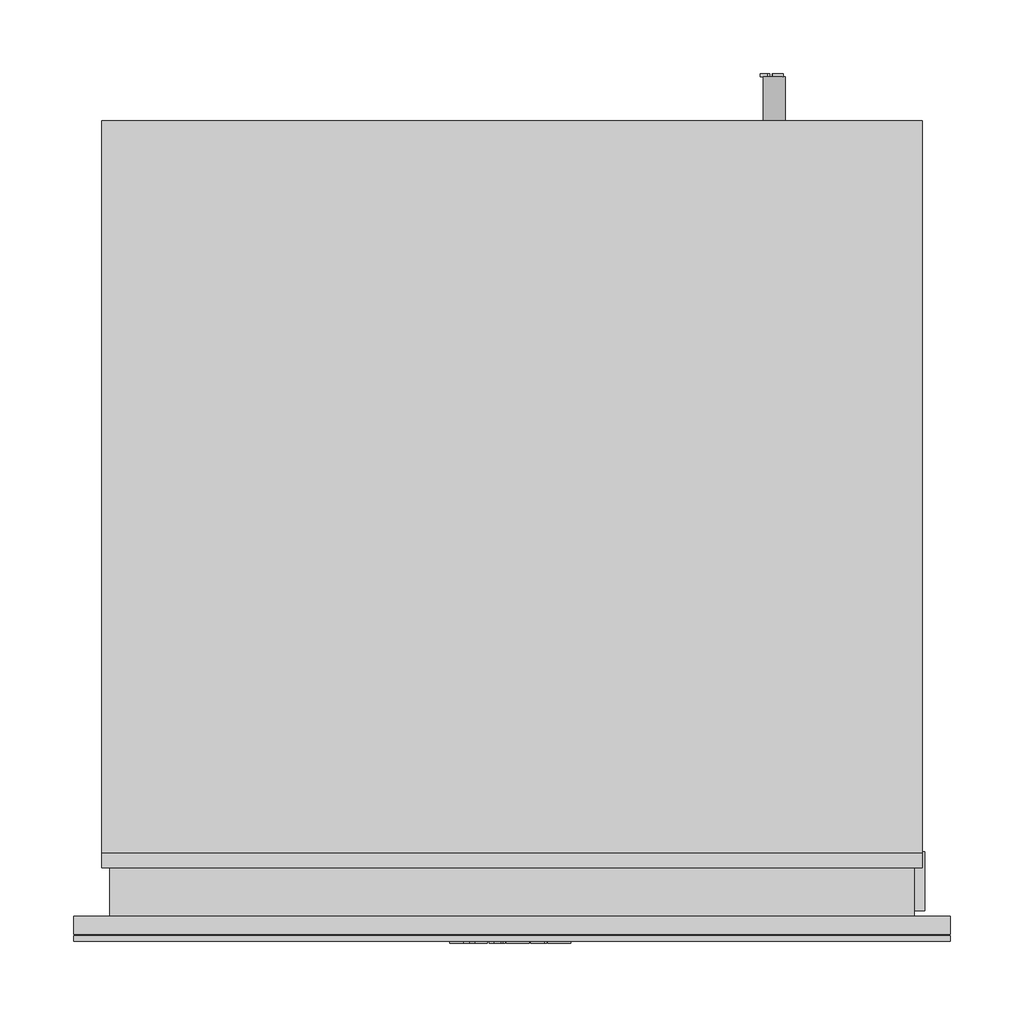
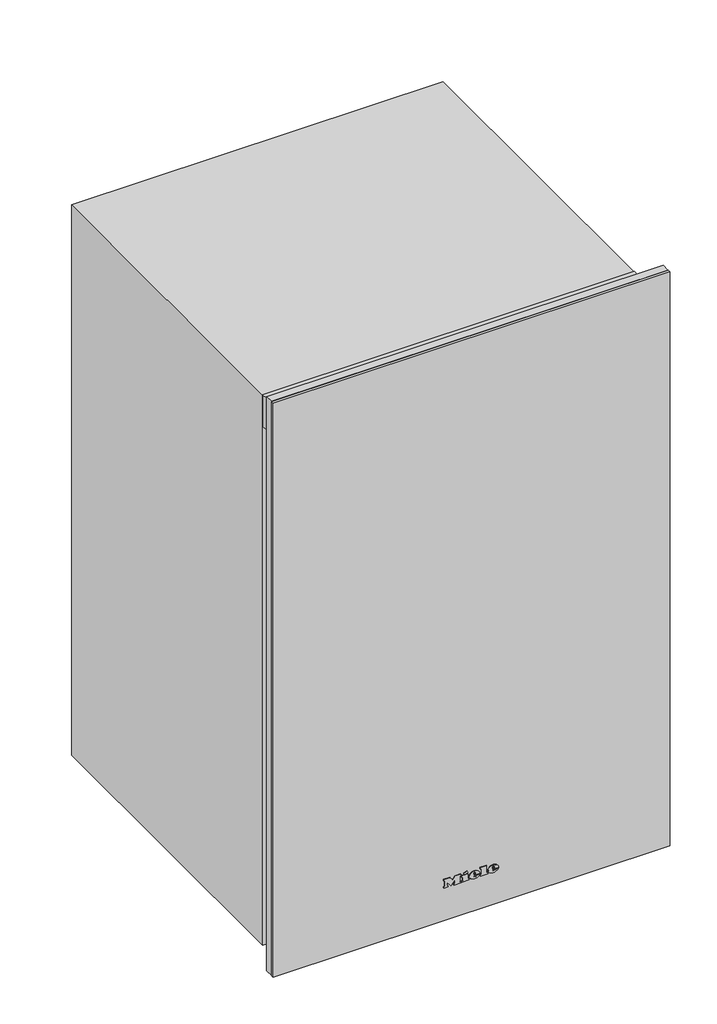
# Not in any storey: 1 proxy.
"""IFC4 building model written with IfcOpenShell, lengths in millimetres."""

import ifcopenshell
import ifcopenshell.guid

model = None  # the IFC model being written
_history = None  # IfcOwnerHistory: only IFC2X3 demands one
_inside = {}  # id of a spatial element -> (the spatial element, [elements in it])
_under = {}  # id of a project, library or spatial element -> (it, [spatial elements below it])
_declared = {}  # id of a project -> (the project, [libraries it declares])
_typed = {}  # id of a type object -> (the type object, [elements of that type])
_made_of = {}  # id of a material, layer set ... -> (it, [elements and type objects made of it])


def new_model(schema):
    """Start an empty IFC model of exactly this schema.

    Asked for "IFC4X3", IfcOpenShell would pick the latest addendum, in which some entities
    have other attributes; the version numbers below select the first issue.
    IFC2X3 requires an IfcOwnerHistory on every rooted entity: one is made here for all.
    """
    global model, _history
    if schema == "IFC4X3":
        model = ifcopenshell.file(schema_version=(4, 3, 0, 0))
    else:
        model = ifcopenshell.file(schema=schema)
    _inside.clear()
    _under.clear()
    _declared.clear()
    _typed.clear()
    _made_of.clear()
    _history = None
    if model.schema == "IFC2X3":
        org = make("IfcOrganization", Name="unknown")
        user = make(
            "IfcPersonAndOrganization",
            ThePerson=make("IfcPerson", FamilyName="unknown"),
            TheOrganization=org,
        )
        app = make(
            "IfcApplication",
            ApplicationDeveloper=org,
            Version="unknown",
            ApplicationFullName="unknown",
            ApplicationIdentifier="unknown",
        )
        _history = make(
            "IfcOwnerHistory",
            OwningUser=user,
            OwningApplication=app,
            ChangeAction="ADDED",
            CreationDate=0,
        )
    return model


def make(cls, **values):
    """One entity of the class cls with the attributes given. An attribute that is None is left unset."""
    return model.create_entity(
        cls, **{name: value for name, value in values.items() if value is not None}
    )


def rooted(cls, **values):
    """An entity with a GlobalId (a new one), such as an element, a storey or a relation."""
    return make(cls, GlobalId=ifcopenshell.guid.new(), OwnerHistory=_history, **values)


def si_unit(unit_type, name, prefix=None):
    """IfcSIUnit, for example si_unit("LENGTHUNIT", "METRE", prefix="MILLI")."""
    return make("IfcSIUnit", UnitType=unit_type, Prefix=prefix, Name=name)


def assignment(units):
    """IfcUnitAssignment: the units of a project."""
    return None if units is None else make("IfcUnitAssignment", Units=units)


def point(xyz):
    """IfcCartesianPoint."""
    return None if xyz is None else make("IfcCartesianPoint", Coordinates=xyz)


def direction(xyz):
    """IfcDirection."""
    return None if xyz is None else make("IfcDirection", DirectionRatios=xyz)


def frame(location, z_axis=None, x_axis=None):
    """IfcAxis2Placement3D, a coordinate frame: its origin and axes. An axis left out is left unset."""
    return make(
        "IfcAxis2Placement3D",
        Location=point(location),
        Axis=direction(z_axis),
        RefDirection=direction(x_axis),
    )


def frame_2d(location, x_axis=None):
    """IfcAxis2Placement2D, a coordinate frame in the plane: its origin and x axis."""
    return make(
        "IfcAxis2Placement2D", Location=point(location), RefDirection=direction(x_axis)
    )


def origin():
    """The frame at (0, 0, 0) with its axes left unset."""
    return frame((0.0, 0.0, 0.0))


def place(relative_to, where):
    """IfcLocalPlacement: puts the frame where relative to a parent placement (None: the world)."""
    return make(
        "IfcLocalPlacement", PlacementRelTo=relative_to, RelativePlacement=where
    )


def context(
    kind, dimensions, precision=None, world=None, true_north=None, identifier=None
):
    """IfcGeometricRepresentationContext, for example the 3D "Model" context."""
    return make(
        "IfcGeometricRepresentationContext",
        ContextIdentifier=identifier,
        ContextType=kind,
        CoordinateSpaceDimension=dimensions,
        Precision=precision,
        WorldCoordinateSystem=world,
        TrueNorth=true_north,
    )


def project(units=None, contexts=None):
    """IfcProject with its units and contexts."""
    return rooted(
        "IfcProject",
        Name="project",
        RepresentationContexts=contexts,
        UnitsInContext=assignment(units),
    )


def spatial(cls, under=None, at=None, **own):
    """A site, building, storey or space (cls), placed at a placement, below another one or the project."""
    s = rooted(cls, ObjectPlacement=at, **own)
    if under is not None:
        _under.setdefault(under.id(), (under, []))[1].append(s)
    return s


def polyline(points):
    """IfcPolyline through the points."""
    return make("IfcPolyline", Points=[point(p) for p in points])


def circle_curve(where, radius):
    """IfcCircle in the frame where."""
    return make("IfcCircle", Position=where, Radius=radius)


def ellipse_curve(where, semi_axis1, semi_axis2):
    """IfcEllipse in the frame where."""
    return make(
        "IfcEllipse", Position=where, SemiAxis1=semi_axis1, SemiAxis2=semi_axis2
    )


def trimmed(basis, trim1, trim2, sense, master):
    """IfcTrimmedCurve: the piece of a basis curve between two trims."""
    return make(
        "IfcTrimmedCurve",
        BasisCurve=basis,
        Trim1=trim1,
        Trim2=trim2,
        SenseAgreement=sense,
        MasterRepresentation=master,
    )


def segment(curve, same_sense, transition):
    """IfcCompositeCurveSegment."""
    return make(
        "IfcCompositeCurveSegment",
        Transition=transition,
        SameSense=same_sense,
        ParentCurve=curve,
    )


def composite_curve(segments, self_intersect=None):
    """IfcCompositeCurve: segments joined end to end."""
    return make("IfcCompositeCurve", Segments=segments, SelfIntersect=self_intersect)


def outline(outer, holes=None, kind="AREA"):
    """IfcArbitraryClosedProfileDef: a profile drawn as a closed curve; with holes, ...WithVoids."""
    if holes is None:
        return make("IfcArbitraryClosedProfileDef", ProfileType=kind, OuterCurve=outer)
    return make(
        "IfcArbitraryProfileDefWithVoids",
        ProfileType=kind,
        OuterCurve=outer,
        InnerCurves=holes,
    )


def extrude(swept, where, along, depth):
    """IfcExtrudedAreaSolid: the profile swept, set in the frame where, extruded along a direction by depth."""
    return make(
        "IfcExtrudedAreaSolid",
        SweptArea=swept,
        Position=where,
        ExtrudedDirection=direction(along),
        Depth=depth,
    )


def faces_of(points, faces, orient=None, outer=None):
    """IfcFace entities. A face is a list of loops; a loop is a list of indices into points, from 0.

    orient and outer hold one flag for each loop. By default every Orientation is true, the
    first loop of a face is its IfcFaceOuterBound and the others are IfcFaceBound.
    """
    made = []
    for i, loops in enumerate(faces):
        bounds = []
        for j, loop in enumerate(loops):
            is_outer = j == 0 if outer is None else outer[i][j]
            bounds.append(
                make(
                    "IfcFaceOuterBound" if is_outer else "IfcFaceBound",
                    Bound=make("IfcPolyLoop", Polygon=[points[k] for k in loop]),
                    Orientation=True if orient is None else orient[i][j],
                )
            )
        made.append(make("IfcFace", Bounds=bounds))
    return made


def faceted_brep(points, faces, orient=None, outer=None, voids=None):
    """IfcFacetedBrep: a solid bounded by flat faces; with voids (closed shells), ...WithVoids."""
    shared = [point(p) for p in points]
    hull = make("IfcClosedShell", CfsFaces=faces_of(shared, faces, orient, outer))
    if voids is None:
        return make("IfcFacetedBrep", Outer=hull)
    return make(
        "IfcFacetedBrepWithVoids",
        Outer=hull,
        Voids=[
            make(cls, CfsFaces=faces_of(shared, fs, o, b)) for cls, fs, o, b in voids
        ],
    )


def shape(context_of_items, identifier, shape_type, items):
    """IfcShapeRepresentation: the items that make up one representation, for example the "Body"."""
    return make(
        "IfcShapeRepresentation",
        ContextOfItems=context_of_items,
        RepresentationIdentifier=identifier,
        RepresentationType=shape_type,
        Items=items,
    )


def source(mapping_origin, context_of_items, identifier, shape_type, items):
    """IfcRepresentationMap: a shape defined once, which mapped items show again and again."""
    return make(
        "IfcRepresentationMap",
        MappingOrigin=mapping_origin,
        MappedRepresentation=shape(context_of_items, identifier, shape_type, items),
    )


def transform(
    local_origin,
    x_axis=None,
    y_axis=None,
    z_axis=None,
    scale=None,
    scale2=None,
    scale3=None,
    uniform=True,
):
    """IfcCartesianTransformationOperator3D, or its non-uniform kind. x_axis, y_axis, z_axis: its Axis1, 2, 3."""
    if uniform:
        return make(
            "IfcCartesianTransformationOperator3D",
            Axis1=direction(x_axis),
            Axis2=direction(y_axis),
            LocalOrigin=point(local_origin),
            Scale=scale,
            Axis3=direction(z_axis),
        )
    return make(
        "IfcCartesianTransformationOperator3DnonUniform",
        Axis1=direction(x_axis),
        Axis2=direction(y_axis),
        LocalOrigin=point(local_origin),
        Scale=scale,
        Axis3=direction(z_axis),
        Scale2=scale2,
        Scale3=scale3,
    )


def mapped(mapping_source, mapping_target):
    """IfcMappedItem: shows the shape of a source again, moved by a transform."""
    return make(
        "IfcMappedItem", MappingSource=mapping_source, MappingTarget=mapping_target
    )


def made_of(thing, what):
    """Note that an element or type object is made of a material, layer set ...; save() writes the relation."""
    if what is not None:
        _made_of.setdefault(what.id(), (what, []))[1].append(thing)
    return thing


def element(
    cls,
    number,
    at=None,
    inside=None,
    cuts=None,
    type_object=None,
    material=None,
    context=None,
    identifier="Body",
    shape_type=None,
    held_by="IfcProductDefinitionShape",
    body=None,
    shapes=None,
    **own,
):
    """One element of the class cls, such as IfcWall. Its Tag is "e" and its number.

    at: its placement. inside: the storey or other place that contains it. cuts: it is an
    opening in that element (IfcRelVoidsElement). A single representation is given by context,
    identifier, shape_type and body (its items); several are given by shapes. held_by: the class
    of the entity that holds the representations. save() writes the other relations.
    """
    e = rooted(cls, Tag="e%d" % number, ObjectPlacement=at, **own)
    if body is not None:
        shapes = [shape(context, identifier, shape_type, body)]
    if shapes is not None:
        e.Representation = make(held_by, Representations=shapes)
    if inside is not None:
        _inside.setdefault(inside.id(), (inside, []))[1].append(e)
    if cuts is not None:
        rooted(
            "IfcRelVoidsElement", RelatingBuildingElement=cuts, RelatedOpeningElement=e
        )
    if type_object is not None:
        _typed.setdefault(type_object.id(), (type_object, []))[1].append(e)
    return made_of(e, material)


def aggregate(whole, parts):
    """IfcRelAggregates: a whole, such as a stair, and the parts it consists of."""
    return rooted("IfcRelAggregates", RelatingObject=whole, RelatedObjects=parts)


def save(model, path):
    """Write the relations noted so far, then the file.

    IfcRelAggregates (storeys below a building ...), IfcRelContainedInSpatialStructure (elements
    in a storey), IfcRelDefinesByType, IfcRelAssociatesMaterial and IfcRelDeclares: one each for
    every whole, place, type object, material and project.
    """
    for whole, parts in _under.values():
        aggregate(whole, parts)
    for where, things in _inside.values():
        rooted(
            "IfcRelContainedInSpatialStructure",
            RelatedElements=things,
            RelatingStructure=where,
        )
    for kind, things in _typed.values():
        rooted("IfcRelDefinesByType", RelatedObjects=things, RelatingType=kind)
    for what, things in _made_of.values():
        rooted("IfcRelAssociatesMaterial", RelatedObjects=things, RelatingMaterial=what)
    for by, libraries in _declared.values():
        rooted("IfcRelDeclares", RelatingContext=by, RelatedDefinitions=libraries)
    model.write(path)


def plane_surface(at):
    """IfcPlane: the flat surface through the origin of the frame at, square to its z axis."""
    return make("IfcPlane", Position=at)


def cylinder_surface(at, radius):
    """IfcCylindricalSurface: all points at the distance radius from the z axis of the frame at."""
    return make("IfcCylindricalSurface", Position=at, Radius=radius)


def revolved_surface(curve, axis_point, axis_direction):
    """IfcSurfaceOfRevolution: the curve turned about the line through axis_point along axis_direction."""
    return make(
        "IfcSurfaceOfRevolution",
        SweptCurve=make("IfcArbitraryOpenProfileDef", ProfileType="CURVE", Curve=curve),
        AxisPosition=make("IfcAxis1Placement", Location=point(axis_point), Axis=direction(axis_direction)),
    )


def extruded_surface(curve, direction_of_extrusion, depth):
    """IfcSurfaceOfLinearExtrusion: the curve pushed along a direction by depth."""
    return make(
        "IfcSurfaceOfLinearExtrusion",
        SweptCurve=make("IfcArbitraryOpenProfileDef", ProfileType="CURVE", Curve=curve),
        ExtrudedDirection=direction(direction_of_extrusion),
        Depth=depth,
    )


def advanced_brep(points, edges, surfaces, faces):
    """IfcAdvancedBrep: a solid bounded by faces that lie on surfaces and meet in shared edges.

    An edge is (start, end): straight between two places in points (the first is 0);
    or (start, end, curve); or (start, end, curve, False) where it runs against its curve.
    A face is (place in surfaces, loops), or (place, loops, False) where it looks against
    its surface's normal. A loop lists edges by number (the first is 1), with a minus sign
    where the edge is run from its end to its start. The first loop is the outer one.
    """
    corners = [point(p) for p in points]
    vertices = [make("IfcVertexPoint", VertexGeometry=c) for c in corners]
    made = []
    for start, end, *more in edges:
        made.append(
            make(
                "IfcEdgeCurve",
                EdgeStart=vertices[start],
                EdgeEnd=vertices[end],
                EdgeGeometry=more[0] if more else make("IfcPolyline", Points=[corners[start], corners[end]]),
                SameSense=more[1] if len(more) > 1 else True,
            )
        )
    hull = []
    for where, loops, *sense in faces:
        bounds = []
        for j, loop in enumerate(loops):
            ring = [make("IfcOrientedEdge", EdgeElement=made[abs(k) - 1], Orientation=k > 0) for k in loop]
            bounds.append(
                make(
                    "IfcFaceOuterBound" if j == 0 else "IfcFaceBound",
                    Bound=make("IfcEdgeLoop", EdgeList=ring),
                    Orientation=True,
                )
            )
        hull.append(make("IfcAdvancedFace", Bounds=bounds, FaceSurface=surfaces[where], SameSense=sense[0] if sense else True))
    return make("IfcAdvancedBrep", Outer=make("IfcClosedShell", CfsFaces=hull))


def specialty_equipment_434683bb(model_context):
    return source(origin(), model_context, "Body", "SolidModel", [
        advanced_brep(
        [(30.9909978, -1.0, 48.1245173), (30.9909978, -1.0, 49.4880173), (40.0224978, -1.0, 49.4880173), (24.3084978, -1.0, 49.4880173), (28.0209978, -1.0, 44.9250173), (39.7929978, -1.0, 48.1245173), (35.7159978, -1.0, 48.1245173), (32.5029978, -1.0, 46.6125173), (30.9909978, -1.0, 51.2160173), (30.9909978, -1.0, 52.6875173), (33.2994978, -1.0, 52.6875173), (33.2994978, -1.0, 51.2160173), (30.9909978, 0.0, 48.1245173), (32.5029978, 0.0, 46.6125173), (35.7159978, 0.0, 48.1245173), (39.7929978, 0.0, 48.1245173), (28.0209978, 0.0, 44.9250173), (24.3084978, 0.0, 49.4880173), (40.0224978, 0.0, 49.4880173), (30.9909978, 0.0, 49.4880173), (30.9909978, 0.0, 51.2160173), (33.2994978, 0.0, 51.2160173), (33.2994978, 0.0, 52.6875173), (30.9909978, 0.0, 52.6875173)],
        [
            (0, 1),
            (1, 2),
            (2, 3, ellipse_curve(frame((32.1654978, -1.0, 49.4880173), z_axis=(0.0, -1.0, 0.0), x_axis=(-1.0, 0.0, 0.0)), 7.857, 6.4935)),
            (3, 4, circle_curve(frame((29.5330714, -1.0, 49.9470173), z_axis=(0.0, -1.0, 0.0), x_axis=(0.0, 0.0, -1.0)), 5.2446974)),
            (4, 5, circle_curve(frame((32.008212, -1.0, 53.5110173), z_axis=(0.0, -1.0, 0.0), x_axis=(0.0, 0.0, -1.0)), 9.46664)),
            (5, 6),
            (6, 7, circle_curve(frame((33.1629096, -1.0, 49.3800173), z_axis=(0.0, 1.0, 0.0), x_axis=(0.0, 0.0, -1.0)), 2.8450905)),
            (7, 0, circle_curve(frame((32.5029978, -1.0, 48.1245173), z_axis=(0.0, 1.0, 0.0), x_axis=(0.0, 0.0, -1.0)), 1.512)),
            (8, 9),
            (9, 10, circle_curve(frame((32.1452478, -1.0, 52.6875173), z_axis=(0.0, 1.0, 0.0), x_axis=(0.0, 0.0, -1.0)), 1.15425)),
            (10, 11),
            (11, 8),
            (12, 13, circle_curve(frame((32.5029978, 0.0, 48.1245173), z_axis=(0.0, -1.0, 0.0), x_axis=(0.0, 0.0, -1.0)), 1.512)),
            (13, 14, circle_curve(frame((33.1629096, 0.0, 49.3800173), z_axis=(0.0, -1.0, 0.0), x_axis=(0.0, 0.0, -1.0)), 2.8450905)),
            (14, 15),
            (15, 16, circle_curve(frame((32.008212, 0.0, 53.5110173), z_axis=(0.0, 1.0, 0.0), x_axis=(0.0, 0.0, -1.0)), 9.46664)),
            (16, 17, circle_curve(frame((29.5330714, 0.0, 49.9470173), z_axis=(0.0, 1.0, 0.0), x_axis=(0.0, 0.0, -1.0)), 5.2446974)),
            (17, 18, ellipse_curve(frame((32.1654978, 0.0, 49.4880173), z_axis=(0.0, 1.0, 0.0), x_axis=(-1.0, 0.0, 0.0)), 7.857, 6.4935)),
            (18, 19),
            (19, 12),
            (20, 21),
            (21, 22),
            (22, 23, circle_curve(frame((32.1452478, 0.0, 52.6875173), z_axis=(0.0, -1.0, 0.0), x_axis=(0.0, 0.0, -1.0)), 1.15425)),
            (23, 20),
            (0, 12),
            (19, 1),
            (18, 2),
            (5, 15),
            (14, 6),
            (17, 3),
            (13, 7),
            (16, 4),
            (8, 20),
            (23, 9),
            (22, 10),
            (21, 11),
        ],
        [
            plane_surface(frame((30.9909978, -1.0, 49.4880173), z_axis=(0.0, -1.0, 0.0), x_axis=(0.0, 0.0, 1.0))),
            plane_surface(frame((30.9909978, 0.0, 49.4880173), z_axis=(0.0, 1.0, 0.0), x_axis=(0.0, 0.0, -1.0))),
            plane_surface(frame((30.9909978, -1.0, 48.1245173), z_axis=(1.0, 0.0, 0.0), x_axis=(0.0, 1.0, 0.0))),
            plane_surface(frame((30.9909978, -1.0, 49.4880173), z_axis=(0.0, 0.0, -1.0), x_axis=(0.0, 1.0, 0.0))),
            plane_surface(frame((39.7929978, -1.0, 48.1245173), z_axis=(0.0, 0.0, 1.0), x_axis=(0.0, 1.0, 0.0))),
            extruded_surface(trimmed(ellipse_curve(frame((32.1654978, 1.0, 49.4880173), z_axis=(0.0, -1.0, 0.0), x_axis=(-1.0, 0.0, 0.0)), 7.857, 6.4935), [point((40.0224978, 1.0, 49.4880173))], [point((24.3084978, 1.0, 49.4880173))], True, "CARTESIAN"), (0.0, -1.0, 0.0), 1.0),
            revolved_surface(polyline([(33.1629096, 0.0, 46.5349268), (33.1629096, -1.0, 46.5349268)]), (33.1629096, 0.0, 49.3800173), (0.0, 1.0, 0.0)),
            revolved_surface(polyline([(32.5029978, 0.0, 46.6125173), (32.5029978, -1.0, 46.6125173)]), (32.5029978, 0.0, 48.1245173), (0.0, 1.0, 0.0)),
            cylinder_surface(frame((29.5330714, 0.0, 49.9470173), z_axis=(0.0, -1.0, 0.0), x_axis=(0.0, 0.0, -1.0)), 5.2446974),
            cylinder_surface(frame((32.008212, 0.0, 53.5110173), z_axis=(0.0, -1.0, 0.0), x_axis=(0.0, 0.0, -1.0)), 9.46664),
            plane_surface(frame((30.9909978, -1.0, 51.2160173), z_axis=(1.0, 0.0, 0.0), x_axis=(0.0, 1.0, 0.0))),
            revolved_surface(polyline([(32.1452478, 0.0, 51.533267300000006), (32.1452478, -1.0, 51.533267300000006)]), (32.1452478, 0.0, 52.6875173), (0.0, 1.0, 0.0)),
            plane_surface(frame((33.2994978, -1.0, 52.6875173), z_axis=(-1.0, 0.0, 0.0), x_axis=(0.0, 1.0, 0.0))),
            plane_surface(frame((33.2994978, -1.0, 51.2160173), z_axis=(0.0, 0.0, 1.0), x_axis=(0.0, 1.0, 0.0))),
        ],
        [
            (0, [[1, 2, 3, 4, 5, 6, 7, 8], [9, 10, 11, 12]]),
            (1, [[13, 14, 15, 16, 17, 18, 19, 20], [21, 22, 23, 24]]),
            (2, [[-1, 25, -20, 26]]),
            (3, [[-2, -26, -19, 27]]),
            (4, [[-6, 28, -15, 29]]),
            (5, [[-3, -27, -18, 30]]),
            (6, [[-7, -29, -14, 31]]),
            (7, [[-8, -31, -13, -25]]),
            (8, [[-4, -30, -17, 32]]),
            (9, [[-5, -32, -16, -28]]),
            (10, [[-9, 33, -24, 34]]),
            (11, [[-10, -34, -23, 35]]),
            (12, [[-11, -35, -22, 36]]),
            (13, [[-12, -36, -21, -33]]),
        ],
    ),
        advanced_brep(
        [(2.8164978, -1.0, 48.1245173), (2.8164978, -1.0, 49.4880173), (11.8479978, -1.0, 49.4880173), (-3.8660022, -1.0, 49.4880173), (-0.1535022, -1.0, 44.9250173), (11.6184978, -1.0, 48.1245173), (7.5414978, -1.0, 48.1245173), (4.3284978, -1.0, 46.6125173), (2.8164978, -1.0, 51.2160173), (2.8164978, -1.0, 52.6875173), (5.1249978, -1.0, 52.6875173), (5.1249978, -1.0, 51.2160173), (2.8164978, 0.0, 48.1245173), (4.3284978, 0.0, 46.6125173), (7.5414978, 0.0, 48.1245173), (11.6184978, 0.0, 48.1245173), (-0.1535022, 0.0, 44.9250173), (-3.8660022, 0.0, 49.4880173), (11.8479978, 0.0, 49.4880173), (2.8164978, 0.0, 49.4880173), (2.8164978, 0.0, 51.2160173), (5.1249978, 0.0, 51.2160173), (5.1249978, 0.0, 52.6875173), (2.8164978, 0.0, 52.6875173)],
        [
            (0, 1),
            (1, 2),
            (2, 3, ellipse_curve(frame((3.9909978, -1.0, 49.4880173), z_axis=(0.0, -1.0, 0.0), x_axis=(-1.0, 0.0, 0.0)), 7.857, 6.4935)),
            (3, 4, circle_curve(frame((1.3585714, -1.0, 49.9470173), z_axis=(0.0, -1.0, 0.0), x_axis=(0.0, 0.0, -1.0)), 5.2446974)),
            (4, 5, circle_curve(frame((3.833712, -1.0, 53.5110173), z_axis=(0.0, -1.0, 0.0), x_axis=(0.0, 0.0, -1.0)), 9.46664)),
            (5, 6),
            (6, 7, circle_curve(frame((4.9884096, -1.0, 49.3800173), z_axis=(0.0, 1.0, 0.0), x_axis=(0.0, 0.0, -1.0)), 2.8450905)),
            (7, 0, circle_curve(frame((4.3284978, -1.0, 48.1245173), z_axis=(0.0, 1.0, 0.0), x_axis=(0.0, 0.0, -1.0)), 1.512)),
            (8, 9),
            (9, 10, circle_curve(frame((3.9707478, -1.0, 52.6875173), z_axis=(0.0, 1.0, 0.0), x_axis=(0.0, 0.0, -1.0)), 1.15425)),
            (10, 11),
            (11, 8),
            (12, 13, circle_curve(frame((4.3284978, 0.0, 48.1245173), z_axis=(0.0, -1.0, 0.0), x_axis=(0.0, 0.0, -1.0)), 1.512)),
            (13, 14, circle_curve(frame((4.9884096, 0.0, 49.3800173), z_axis=(0.0, -1.0, 0.0), x_axis=(0.0, 0.0, -1.0)), 2.8450905)),
            (14, 15),
            (15, 16, circle_curve(frame((3.833712, 0.0, 53.5110173), z_axis=(0.0, 1.0, 0.0), x_axis=(0.0, 0.0, -1.0)), 9.46664)),
            (16, 17, circle_curve(frame((1.3585714, 0.0, 49.9470173), z_axis=(0.0, 1.0, 0.0), x_axis=(0.0, 0.0, -1.0)), 5.2446974)),
            (17, 18, ellipse_curve(frame((3.9909978, 0.0, 49.4880173), z_axis=(0.0, 1.0, 0.0), x_axis=(-1.0, 0.0, 0.0)), 7.857, 6.4935)),
            (18, 19),
            (19, 12),
            (20, 21),
            (21, 22),
            (22, 23, circle_curve(frame((3.9707478, 0.0, 52.6875173), z_axis=(0.0, -1.0, 0.0), x_axis=(0.0, 0.0, -1.0)), 1.15425)),
            (23, 20),
            (0, 12),
            (19, 1),
            (18, 2),
            (5, 15),
            (14, 6),
            (17, 3),
            (13, 7),
            (16, 4),
            (8, 20),
            (23, 9),
            (22, 10),
            (21, 11),
        ],
        [
            plane_surface(frame((2.8164978, -1.0, 49.4880173), z_axis=(0.0, -1.0, 0.0), x_axis=(0.0, 0.0, 1.0))),
            plane_surface(frame((2.8164978, 0.0, 49.4880173), z_axis=(0.0, 1.0, 0.0), x_axis=(0.0, 0.0, -1.0))),
            plane_surface(frame((2.8164978, -1.0, 48.1245173), z_axis=(1.0, 0.0, 0.0), x_axis=(0.0, 1.0, 0.0))),
            plane_surface(frame((2.8164978, -1.0, 49.4880173), z_axis=(0.0, 0.0, -1.0), x_axis=(0.0, 1.0, 0.0))),
            plane_surface(frame((11.6184978, -1.0, 48.1245173), z_axis=(0.0, 0.0, 1.0), x_axis=(0.0, 1.0, 0.0))),
            extruded_surface(trimmed(ellipse_curve(frame((3.9909978, 1.0, 49.4880173), z_axis=(0.0, -1.0, 0.0), x_axis=(-1.0, 0.0, 0.0)), 7.857, 6.4935), [point((11.8479978, 1.0, 49.4880173))], [point((-3.8660022, 1.0, 49.4880173))], True, "CARTESIAN"), (0.0, -1.0, 0.0), 1.0),
            revolved_surface(polyline([(4.9884096, 0.0, 46.5349268), (4.9884096, -1.0, 46.5349268)]), (4.9884096, 0.0, 49.3800173), (0.0, 1.0, 0.0)),
            revolved_surface(polyline([(4.3284978, 0.0, 46.6125173), (4.3284978, -1.0, 46.6125173)]), (4.3284978, 0.0, 48.1245173), (0.0, 1.0, 0.0)),
            cylinder_surface(frame((1.3585714, 0.0, 49.9470173), z_axis=(0.0, -1.0, 0.0), x_axis=(0.0, 0.0, -1.0)), 5.2446974),
            cylinder_surface(frame((3.833712, 0.0, 53.5110173), z_axis=(0.0, -1.0, 0.0), x_axis=(0.0, 0.0, -1.0)), 9.46664),
            plane_surface(frame((2.8164978, -1.0, 51.2160173), z_axis=(1.0, 0.0, 0.0), x_axis=(0.0, 1.0, 0.0))),
            revolved_surface(polyline([(3.9707478, 0.0, 51.533267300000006), (3.9707478, -1.0, 51.533267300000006)]), (3.9707478, 0.0, 52.6875173), (0.0, 1.0, 0.0)),
            plane_surface(frame((5.1249978, -1.0, 52.6875173), z_axis=(-1.0, 0.0, 0.0), x_axis=(0.0, 1.0, 0.0))),
            plane_surface(frame((5.1249978, -1.0, 51.2160173), z_axis=(0.0, 0.0, 1.0), x_axis=(0.0, 1.0, 0.0))),
        ],
        [
            (0, [[1, 2, 3, 4, 5, 6, 7, 8], [9, 10, 11, 12]]),
            (1, [[13, 14, 15, 16, 17, 18, 19, 20], [21, 22, 23, 24]]),
            (2, [[-1, 25, -20, 26]]),
            (3, [[-2, -26, -19, 27]]),
            (4, [[-6, 28, -15, 29]]),
            (5, [[-3, -27, -18, 30]]),
            (6, [[-7, -29, -14, 31]]),
            (7, [[-8, -31, -13, -25]]),
            (8, [[-4, -30, -17, 32]]),
            (9, [[-5, -32, -16, -28]]),
            (10, [[-9, 33, -24, 34]]),
            (11, [[-10, -34, -23, 35]]),
            (12, [[-11, -35, -22, 36]]),
            (13, [[-12, -36, -21, -33]]),
        ],
    ),
        extrude(outline(polyline([(57.6285173, -11.9390022), (55.4415173, -10.9130022), (57.5745173, -6.3365022), (59.7615173, -7.3490022), (57.6285173, -11.9390022)])), frame((0.0, -1.0, 0.0), z_axis=(0.0, 1.0, 0.0), x_axis=(0.0, 0.0, 1.0)), (0.0, 0.0, 1.0), 1.0),
        extrude(outline(polyline([(55.1445173, -15.2735022), (52.7280173, -15.2735022), (52.7280173, -13.6670022), (47.1930173, -13.6670022), (47.1930173, -15.2735022), (44.9250173, -15.2735022), (44.9250173, -4.6220022), (47.1930173, -4.6220022), (47.1930173, -6.1880022), (55.1445173, -6.1880022), (55.1445173, -15.2735022)])), frame((0.0, -1.0, 0.0), z_axis=(0.0, 1.0, 0.0), x_axis=(0.0, 0.0, 1.0)), (0.0, 0.0, 1.0), 1.0),
        extrude(outline(polyline([(56.2245173, 12.6039978), (56.2245173, 14.2239978), (47.1930173, 14.2239978), (47.1930173, 12.6039978), (44.9250173, 12.6039978), (44.9250173, 23.5524978), (47.1930173, 23.5524978), (47.1930173, 21.8919978), (58.4250173, 21.8919978), (58.4250173, 12.6039978), (56.2245173, 12.6039978)])), frame((0.0, -1.0, 0.0), z_axis=(0.0, 1.0, 0.0), x_axis=(0.0, 0.0, 1.0)), (0.0, 0.0, 1.0), 1.0),
        extrude(outline(polyline([(56.2245173, -42.1790022), (56.2245173, -40.5455022), (47.1930173, -40.5455022), (47.1930173, -42.1790022), (44.9250173, -42.1790022), (44.9250173, -36.2390022), (47.1930173, -36.2390022), (47.1930173, -37.8590022), (52.900642, -37.8590022), (44.9250173, -31.8245022), (53.1777396, -25.7630022), (47.1930173, -25.7630022), (47.1930173, -27.4235022), (44.9250173, -27.4235022), (44.9250173, -16.6505022), (47.1930173, -16.6505022), (47.1930173, -18.3650022), (56.2245173, -18.3650022), (56.2245173, -16.6505022), (58.4250173, -16.6505022), (58.4250173, -24.8720022), (53.3625173, -28.8140022), (58.4250173, -32.7695022), (58.4250173, -42.1790022), (56.2245173, -42.1790022)])), frame((0.0, -1.0, 0.0), z_axis=(0.0, 1.0, 0.0), x_axis=(0.0, 0.0, 1.0)), (0.0, 0.0, 1.0), 1.0),
        extrude(outline(polyline([(0.0, -5.0), (0.0, 0.0), (342.0, 0.0), (342.0, -5.0), (0.0, -5.0)])), frame((171.0, 69.1703709, 491.2940952), z_axis=(0.0, 0.2588190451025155, 0.9659258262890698), x_axis=(-1.0, 0.0, 0.0)), (0.0, 0.0, 1.0), 48.0),
        extrude(outline(composite_curve([segment(trimmed(circle_curve(frame_2d((52.0, 178.0)), 7.5), [point((52.0, 185.5))], [point((52.0, 170.5))], False, "CARTESIAN"), True, "CONTINUOUS"), segment(trimmed(circle_curve(frame_2d((52.0, 178.0)), 7.5), [point((52.0, 170.5))], [point((52.0, 185.5))], False, "CARTESIAN"), True, "CONTINUOUS")], self_intersect=False)), frame((0.0, 557.0, 0.0), z_axis=(0.0, 1.0, 0.0), x_axis=(0.0, 0.0, 1.0)), (0.0, 0.0, 1.0), 30.0),
        faceted_brep([(278.5, 557.0, 872.0), (-278.5, 557.0, 872.0), (-278.5, 60.0, 872.0), (278.5, 60.0, 872.0), (278.5, 557.0, 0.0), (278.5, 60.0, 0.0), (-278.5, 60.0, 0.0), (-278.5, 557.0, 0.0), (-232.5, 60.0, 782.0), (232.5, 60.0, 782.0), (232.5, 60.0, 80.0), (-232.5, 60.0, 80.0), (232.5, 460.0, 782.0), (-232.5, 460.0, 782.0), (-232.5, 460.0, 80.0), (232.5, 460.0, 80.0)], [[[0, 1, 2, 3]], [[4, 5, 6, 7]], [[1, 0, 4, 7]], [[2, 1, 7, 6]], [[3, 2, 6, 5], [8, 9, 10, 11]], [[0, 3, 5, 4]], [[12, 13, 14, 15]], [[13, 12, 9, 8]], [[14, 13, 8, 11]], [[15, 14, 11, 10]], [[12, 15, 10, 9]]]),
        extrude(outline(polyline([(232.5, 339.0), (-232.5, 339.0), (-232.5, 460.0), (232.5, 460.0), (232.5, 339.0)])), frame((0.0, 0.0, 80.0), z_axis=(0.0, 0.0, 1.0), x_axis=(1.0, 0.0, 0.0)), (0.0, 0.0, 1.0), 205.0),
        extrude(outline(polyline([(232.5, 460.0), (232.5, 400.0), (-232.5, 400.0), (-232.5, 460.0), (232.5, 460.0)])), frame((0.0, 0.0, 354.9519517), z_axis=(0.0, 0.0, 1.0), x_axis=(1.0, 0.0, 0.0)), (0.0, 0.0, 1.0), 119.0480483),
        extrude(outline(polyline([(400.0, 634.0), (400.0, 752.0), (60.0, 752.0), (60.0, 782.0), (460.0, 782.0), (460.0, 634.0), (400.0, 634.0)])), frame((-232.5, 0.0, 0.0), z_axis=(1.0, 0.0, 0.0), x_axis=(0.0, 1.0, 0.0)), (0.0, 0.0, 1.0), 465.0),
        extrude(outline(polyline([(47.2618945, 184.0941573), (57.3075256, 184.0941573), (57.3075256, 176.87386), (56.0518217, 176.87386), (56.0518217, 182.8384535), (53.069525, 182.8384535), (53.069525, 177.187786), (51.8138211, 177.187786), (51.8138211, 182.8384535), (48.5175984, 182.8384535), (48.5175984, 176.7168971), (47.2618945, 176.7168971), (47.2618945, 184.0941573)])), frame((0.0, 587.0, 0.0), z_axis=(0.0, 1.0, 0.0), x_axis=(0.0, 0.0, 1.0)), (0.0, 0.0, 1.0), 2.0),
        extrude(outline(polyline([(47.2618945, 174.8333412), (57.3075256, 174.8333412), (57.3075256, 173.5776374), (48.5175984, 173.5776374), (48.5175984, 168.5548219), (47.2618945, 168.5548219), (47.2618945, 174.8333412)])), frame((0.0, 587.0, 0.0), z_axis=(0.0, 1.0, 0.0), x_axis=(0.0, 0.0, 1.0)), (0.0, 0.0, 1.0), 2.0),
        extrude(outline(polyline([(-278.5, 60.0), (278.5, 60.0), (278.5, 50.0), (-278.5, 50.0), (-278.5, 60.0)])), frame((0.0, 0.0, 823.0), z_axis=(0.0, 0.0, 1.0), x_axis=(1.0, 0.0, 0.0)), (0.0, 0.0, 1.0), 50.0),
        extrude(outline(polyline([(10.0, 67.0438353), (-10.0, 67.0438353), (-10.0, 400.0), (10.0, 400.0), (10.0, 67.0438353)])), frame((0.0, 0.0, 373.0), z_axis=(0.0, 0.0, 1.0), x_axis=(1.0, 0.0, 0.0)), (0.0, 0.0, 1.0), 10.0),
        extrude(outline(polyline([(-40.625, 67.0438353), (-60.625, 67.0438353), (-60.625, 400.0), (-40.625, 400.0), (-40.625, 67.0438353)])), frame((0.0, 0.0, 373.0), z_axis=(0.0, 0.0, 1.0), x_axis=(1.0, 0.0, 0.0)), (0.0, 0.0, 1.0), 10.0),
        extrude(outline(polyline([(-91.25, 67.0438353), (-111.25, 67.0438353), (-111.25, 400.0), (-91.25, 400.0), (-91.25, 67.0438353)])), frame((0.0, 0.0, 373.0), z_axis=(0.0, 0.0, 1.0), x_axis=(1.0, 0.0, 0.0)), (0.0, 0.0, 1.0), 10.0),
        extrude(outline(polyline([(-141.875, 67.0438353), (-161.875, 67.0438353), (-161.875, 400.0), (-141.875, 400.0), (-141.875, 67.0438353)])), frame((0.0, 0.0, 373.0), z_axis=(0.0, 0.0, 1.0), x_axis=(1.0, 0.0, 0.0)), (0.0, 0.0, 1.0), 10.0),
        extrude(outline(polyline([(-192.5, 67.0438353), (-212.5, 67.0438353), (-212.5, 400.0), (-192.5, 400.0), (-192.5, 67.0438353)])), frame((0.0, 0.0, 373.0), z_axis=(0.0, 0.0, 1.0), x_axis=(1.0, 0.0, 0.0)), (0.0, 0.0, 1.0), 10.0),
        extrude(outline(polyline([(60.625, 67.0438353), (40.625, 67.0438353), (40.625, 400.0), (60.625, 400.0), (60.625, 67.0438353)])), frame((0.0, 0.0, 373.0), z_axis=(0.0, 0.0, 1.0), x_axis=(1.0, 0.0, 0.0)), (0.0, 0.0, 1.0), 10.0),
        extrude(outline(polyline([(111.25, 67.0438353), (91.25, 67.0438353), (91.25, 400.0), (111.25, 400.0), (111.25, 67.0438353)])), frame((0.0, 0.0, 373.0), z_axis=(0.0, 0.0, 1.0), x_axis=(1.0, 0.0, 0.0)), (0.0, 0.0, 1.0), 10.0),
        extrude(outline(polyline([(161.875, 67.0438353), (141.875, 67.0438353), (141.875, 400.0), (161.875, 400.0), (161.875, 67.0438353)])), frame((0.0, 0.0, 373.0), z_axis=(0.0, 0.0, 1.0), x_axis=(1.0, 0.0, 0.0)), (0.0, 0.0, 1.0), 10.0),
        extrude(outline(polyline([(212.5, 67.0438353), (192.5, 67.0438353), (192.5, 400.0), (212.5, 400.0), (212.5, 67.0438353)])), frame((0.0, 0.0, 373.0), z_axis=(0.0, 0.0, 1.0), x_axis=(1.0, 0.0, 0.0)), (0.0, 0.0, 1.0), 10.0),
        extrude(outline(polyline([(10.0, 67.0438353), (-10.0, 67.0438353), (-10.0, 400.0), (10.0, 400.0), (10.0, 67.0438353)])), frame((0.0, 0.0, 654.0), z_axis=(0.0, 0.0, 1.0), x_axis=(1.0, 0.0, 0.0)), (0.0, 0.0, 1.0), 10.0),
        extrude(outline(polyline([(-40.625, 67.0438353), (-60.625, 67.0438353), (-60.625, 400.0), (-40.625, 400.0), (-40.625, 67.0438353)])), frame((0.0, 0.0, 654.0), z_axis=(0.0, 0.0, 1.0), x_axis=(1.0, 0.0, 0.0)), (0.0, 0.0, 1.0), 10.0),
        extrude(outline(polyline([(-91.25, 67.0438353), (-111.25, 67.0438353), (-111.25, 400.0), (-91.25, 400.0), (-91.25, 67.0438353)])), frame((0.0, 0.0, 654.0), z_axis=(0.0, 0.0, 1.0), x_axis=(1.0, 0.0, 0.0)), (0.0, 0.0, 1.0), 10.0),
        extrude(outline(polyline([(-141.875, 67.0438353), (-161.875, 67.0438353), (-161.875, 400.0), (-141.875, 400.0), (-141.875, 67.0438353)])), frame((0.0, 0.0, 654.0), z_axis=(0.0, 0.0, 1.0), x_axis=(1.0, 0.0, 0.0)), (0.0, 0.0, 1.0), 10.0),
        extrude(outline(polyline([(-192.5, 67.0438353), (-212.5, 67.0438353), (-212.5, 400.0), (-192.5, 400.0), (-192.5, 67.0438353)])), frame((0.0, 0.0, 654.0), z_axis=(0.0, 0.0, 1.0), x_axis=(1.0, 0.0, 0.0)), (0.0, 0.0, 1.0), 10.0),
        extrude(outline(polyline([(60.625, 67.0438353), (40.625, 67.0438353), (40.625, 400.0), (60.625, 400.0), (60.625, 67.0438353)])), frame((0.0, 0.0, 654.0), z_axis=(0.0, 0.0, 1.0), x_axis=(1.0, 0.0, 0.0)), (0.0, 0.0, 1.0), 10.0),
        extrude(outline(polyline([(111.25, 67.0438353), (91.25, 67.0438353), (91.25, 400.0), (111.25, 400.0), (111.25, 67.0438353)])), frame((0.0, 0.0, 654.0), z_axis=(0.0, 0.0, 1.0), x_axis=(1.0, 0.0, 0.0)), (0.0, 0.0, 1.0), 10.0),
        extrude(outline(polyline([(161.875, 67.0438353), (141.875, 67.0438353), (141.875, 400.0), (161.875, 400.0), (161.875, 67.0438353)])), frame((0.0, 0.0, 654.0), z_axis=(0.0, 0.0, 1.0), x_axis=(1.0, 0.0, 0.0)), (0.0, 0.0, 1.0), 10.0),
        extrude(outline(polyline([(212.5, 67.0438353), (192.5, 67.0438353), (192.5, 400.0), (212.5, 400.0), (212.5, 67.0438353)])), frame((0.0, 0.0, 654.0), z_axis=(0.0, 0.0, 1.0), x_axis=(1.0, 0.0, 0.0)), (0.0, 0.0, 1.0), 10.0),
        extrude(outline(polyline([(10.0, 64.8678355), (-10.0, 64.8678355), (-10.0, 339.0), (10.0, 339.0), (10.0, 64.8678355)])), frame((0.0, 0.0, 97.0), z_axis=(0.0, 0.0, 1.0), x_axis=(1.0, 0.0, 0.0)), (0.0, 0.0, 1.0), 10.0),
        extrude(outline(polyline([(-40.625, 64.8678355), (-60.625, 64.8678355), (-60.625, 339.0), (-40.625, 339.0), (-40.625, 64.8678355)])), frame((0.0, 0.0, 97.0), z_axis=(0.0, 0.0, 1.0), x_axis=(1.0, 0.0, 0.0)), (0.0, 0.0, 1.0), 10.0),
        extrude(outline(polyline([(-91.25, 64.8678355), (-111.25, 64.8678355), (-111.25, 339.0), (-91.25, 339.0), (-91.25, 64.8678355)])), frame((0.0, 0.0, 97.0), z_axis=(0.0, 0.0, 1.0), x_axis=(1.0, 0.0, 0.0)), (0.0, 0.0, 1.0), 10.0),
        extrude(outline(polyline([(-141.875, 64.8678355), (-161.875, 64.8678355), (-161.875, 339.0), (-141.875, 339.0), (-141.875, 64.8678355)])), frame((0.0, 0.0, 97.0), z_axis=(0.0, 0.0, 1.0), x_axis=(1.0, 0.0, 0.0)), (0.0, 0.0, 1.0), 10.0),
        extrude(outline(polyline([(-192.5, 64.8678355), (-212.5, 64.8678355), (-212.5, 339.0), (-192.5, 339.0), (-192.5, 64.8678355)])), frame((0.0, 0.0, 97.0), z_axis=(0.0, 0.0, 1.0), x_axis=(1.0, 0.0, 0.0)), (0.0, 0.0, 1.0), 10.0),
        extrude(outline(polyline([(60.625, 64.8678355), (40.625, 64.8678355), (40.625, 339.0), (60.625, 339.0), (60.625, 64.8678355)])), frame((0.0, 0.0, 97.0), z_axis=(0.0, 0.0, 1.0), x_axis=(1.0, 0.0, 0.0)), (0.0, 0.0, 1.0), 10.0),
        extrude(outline(polyline([(111.25, 64.8678355), (91.25, 64.8678355), (91.25, 339.0), (111.25, 339.0), (111.25, 64.8678355)])), frame((0.0, 0.0, 97.0), z_axis=(0.0, 0.0, 1.0), x_axis=(1.0, 0.0, 0.0)), (0.0, 0.0, 1.0), 10.0),
        extrude(outline(polyline([(161.875, 64.8678355), (141.875, 64.8678355), (141.875, 339.0), (161.875, 339.0), (161.875, 64.8678355)])), frame((0.0, 0.0, 97.0), z_axis=(0.0, 0.0, 1.0), x_axis=(1.0, 0.0, 0.0)), (0.0, 0.0, 1.0), 10.0),
        extrude(outline(polyline([(212.5, 64.8678355), (192.5, 64.8678355), (192.5, 339.0), (212.5, 339.0), (212.5, 64.8678355)])), frame((0.0, 0.0, 97.0), z_axis=(0.0, 0.0, 1.0), x_axis=(1.0, 0.0, 0.0)), (0.0, 0.0, 1.0), 10.0),
        extrude(outline(polyline([(70.0, 477.0), (70.0, 487.0), (86.0769515, 547.0), (460.0, 547.0), (460.0, 477.0), (70.0, 477.0)])), frame((-232.5, 0.0, 0.0), z_axis=(1.0, 0.0, 0.0), x_axis=(0.0, 1.0, 0.0)), (0.0, 0.0, 1.0), 465.0),
        extrude(outline(polyline([(70.0, 672.3781397), (70.0, 646.0), (60.0, 646.0), (60.0, 649.0), (60.8925608, 649.0), (60.8925608, 668.7661331), (60.0, 668.7661331), (60.0, 672.3781397), (70.0, 672.3781397)])), frame((-232.5, 0.0, 0.0), z_axis=(1.0, 0.0, 0.0), x_axis=(0.0, 1.0, 0.0)), (0.0, 0.0, 1.0), 465.0),
        extrude(outline(polyline([(70.0, 391.3781397), (70.0, 365.0), (60.0, 365.0), (60.0, 368.0), (60.8925608, 368.0), (60.8925608, 387.7661331), (60.0, 387.7661331), (60.0, 391.3781397), (70.0, 391.3781397)])), frame((-232.5, 0.0, 0.0), z_axis=(1.0, 0.0, 0.0), x_axis=(0.0, 1.0, 0.0)), (0.0, 0.0, 1.0), 465.0),
        extrude(outline(polyline([(70.0, 115.3781397), (70.0, 89.0), (60.0, 89.0), (60.0, 92.0), (60.8925608, 92.0), (60.8925608, 111.7661331), (60.0, 111.7661331), (60.0, 115.3781397), (70.0, 115.3781397)])), frame((-232.5, 0.0, 0.0), z_axis=(1.0, 0.0, 0.0), x_axis=(0.0, 1.0, 0.0)), (0.0, 0.0, 1.0), 465.0),
        extrude(outline(polyline([(13.0, 273.0), (867.0, 273.0), (867.0, -273.0), (13.0, -273.0), (13.0, 273.0)]), holes=[polyline([(754.0, 200.0), (117.0, 200.0), (117.0, -200.0), (754.0, -200.0), (754.0, 200.0)])]), frame((0.0, 17.0, 0.0), z_axis=(0.0, 1.0, 0.0), x_axis=(0.0, 0.0, 1.0)), (0.0, 0.0, 1.0), 44.0),
        extrude(outline(polyline([(-200.0, 61.0), (200.0, 61.0), (200.0, 17.0), (-200.0, 17.0), (-200.0, 61.0)])), frame((0.0, 0.0, 117.0), z_axis=(0.0, 0.0, 1.0), x_axis=(1.0, 0.0, 0.0)), (0.0, 0.0, 1.0), 637.0),
        extrude(outline(polyline([(184.0, 61.0), (280.0, 61.0), (280.0, 21.0), (184.0, 21.0), (184.0, 61.0)])), frame((0.0, 0.0, 831.0), z_axis=(0.0, 0.0, 1.0), x_axis=(1.0, 0.0, 0.0)), (0.0, 0.0, 1.0), 33.0),
        extrude(outline(polyline([(184.0, 61.0), (280.0, 61.0), (280.0, 21.0), (184.0, 21.0), (184.0, 61.0)])), frame((0.0, 0.0, 8.0), z_axis=(0.0, 0.0, 1.0), x_axis=(1.0, 0.0, 0.0)), (0.0, 0.0, 1.0), 33.0),
        extrude(outline(polyline([(297.5, 0.0), (-297.5, 0.0), (-297.5, 4.0), (297.5, 4.0), (297.5, 0.0)])), frame((0.0, 0.0, -7.0), z_axis=(0.0, 0.0, 1.0), x_axis=(1.0, 0.0, 0.0)), (0.0, 0.0, 1.0), 909.0),
        extrude(outline(polyline([(902.0, 297.5), (902.0, -297.5), (-7.0, -297.5), (-7.0, 297.5), (902.0, 297.5)]), holes=[polyline([(754.0, 200.0), (117.0, 200.0), (117.0, -200.0), (754.0, -200.0), (754.0, 200.0)])]), frame((0.0, 5.0, 0.0), z_axis=(0.0, 1.0, 0.0), x_axis=(0.0, 0.0, 1.0)), (0.0, 0.0, 1.0), 12.0),
        extrude(outline(polyline([(-200.0, 17.0), (200.0, 17.0), (200.0, 5.0), (-200.0, 5.0), (-200.0, 17.0)])), frame((0.0, 0.0, 117.0), z_axis=(0.0, 0.0, 1.0), x_axis=(1.0, 0.0, 0.0)), (0.0, 0.0, 1.0), 637.0),
    ])


model = new_model("IFC4")

# Units and contexts
model_context = context("Model", 3, world=origin())
ifc_project = project(units=[si_unit("LENGTHUNIT", "METRE", prefix="MILLI")], contexts=[model_context])

# Site, building
site = spatial("IfcSite", under=ifc_project)
building = spatial("IfcBuilding", under=site)

# Proxy
placement = place(None, origin())
specialty_equipment_shape = specialty_equipment_434683bb(model_context)
element("IfcBuildingElementProxy", 1, Name="11784830_OER_KWT6422iG_GRGR : 36642225_OER_11784830_KWT6422iG_GRGR", ObjectType="11784830_OER_KWT6422iG_GRGR : 36642225_OER_11784830_KWT6422iG_GRGR", at=placement, inside=building, context=model_context, shape_type="MappedRepresentation", body=[
    mapped(specialty_equipment_shape, transform((0.0, 0.0, 0.0), x_axis=(1.0, 0.0, 0.0), y_axis=(0.0, 1.0, 0.0), z_axis=(0.0, 0.0, 1.0))),
])

save(model, "model.ifc")
